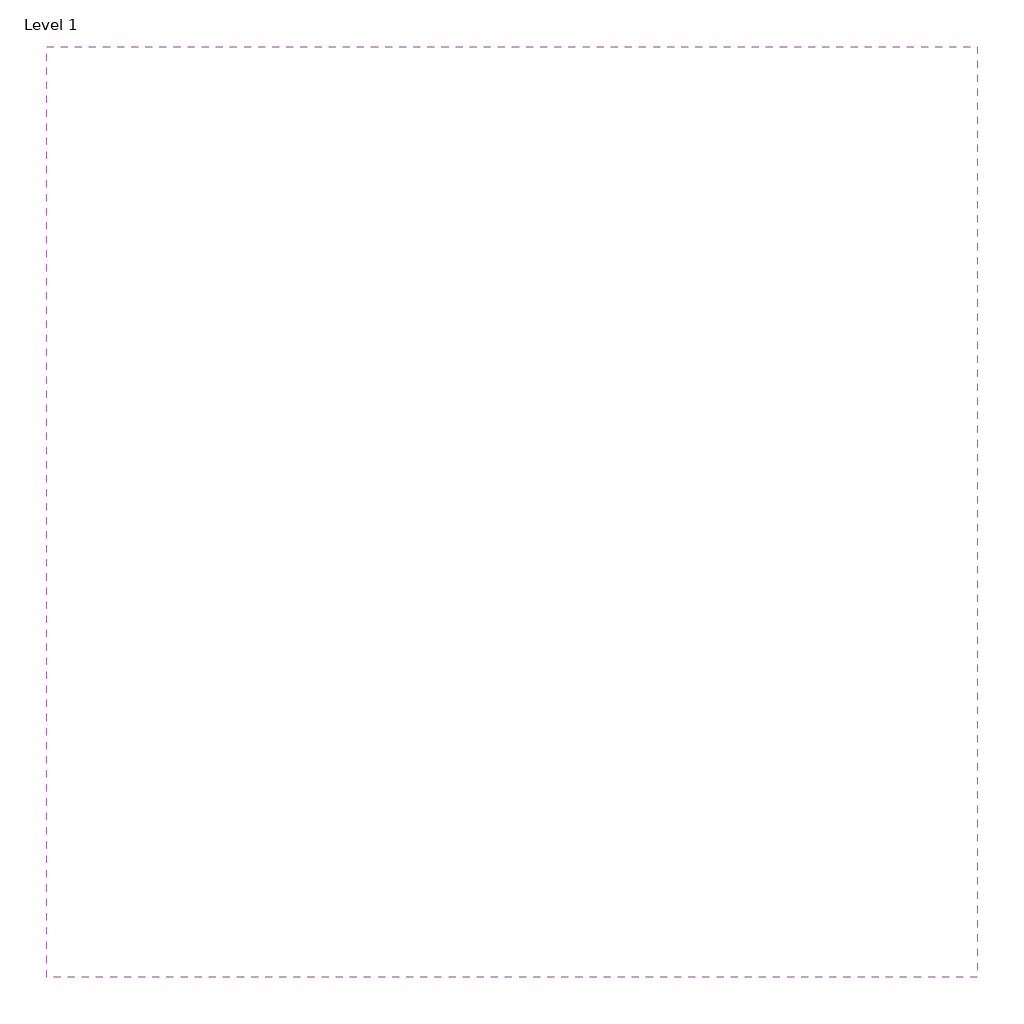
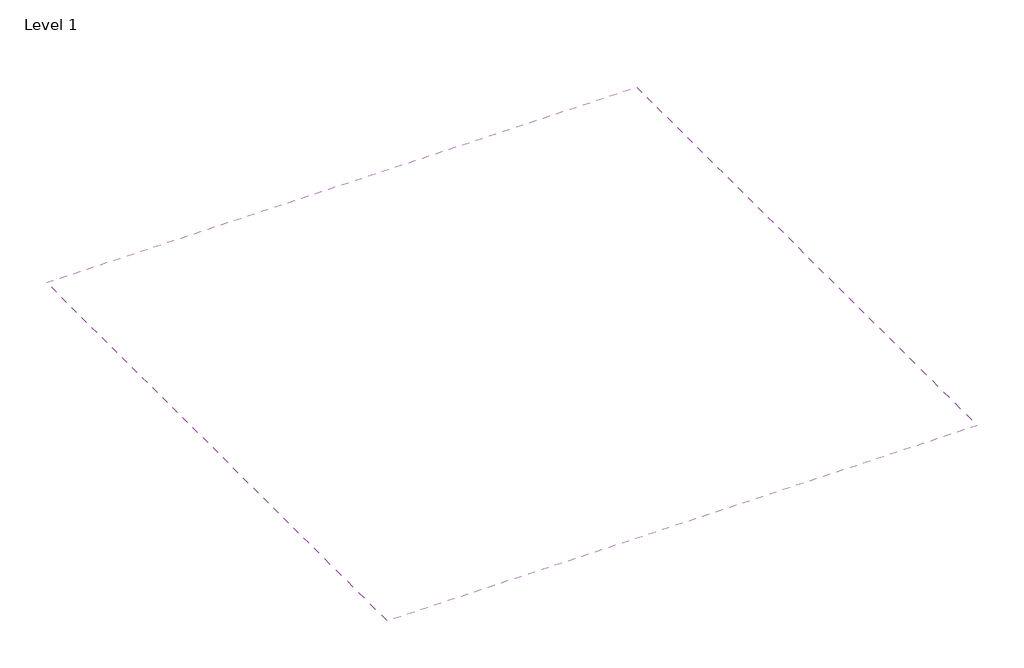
# One storey: 1 covering.
"""IFC4 building model written with IfcOpenShell, lengths in millimetres."""

from ifc_helpers import new_model, si_unit, frame, origin, place, context, project, spatial, polyline, outline, extrude, element, save

model = new_model("IFC4")

# Units and contexts
model_context = context("Model", 3, world=origin())
ifc_project = project(units=[si_unit("LENGTHUNIT", "METRE", prefix="MILLI")], contexts=[model_context])

# Site, building, storey
site = spatial("IfcSite", under=ifc_project)
building = spatial("IfcBuilding", under=site)
storey = spatial("IfcBuildingStorey", under=building, Name="Level 1", Elevation=0.0)

# Covering
placement = place(None, origin())
element("IfcCovering", 1, ObjectType="Gyptec-TETO 38-BA13A", at=placement, inside=storey, context=model_context, shape_type="SweptSolid", body=[
    extrude(outline(polyline([(-432.1403789, 490.7407393), (567.8596211, 490.7407393), (567.8596211, -309.2592607), (-432.1403789, -309.2592607), (-432.1403789, 490.7407393)])), frame((0.0, 0.0, 2612.5), z_axis=(0.0, 0.0, 1.0), x_axis=(1.0, 0.0, 0.0)), (0.0, 0.0, 1.0), 60.0),
    extrude(outline(polyline([(567.8596211, 490.7407393), (567.8596211, -509.2592607), (-432.1403789, -509.2592607), (-432.1403789, 490.7407393), (567.8596211, 490.7407393)])), frame((0.0, 0.0, 2600.0), z_axis=(0.0, 0.0, 1.0), x_axis=(1.0, 0.0, 0.0)), (0.0, 0.0, 1.0), 12.5),
])

save(model, "model.ifc")
